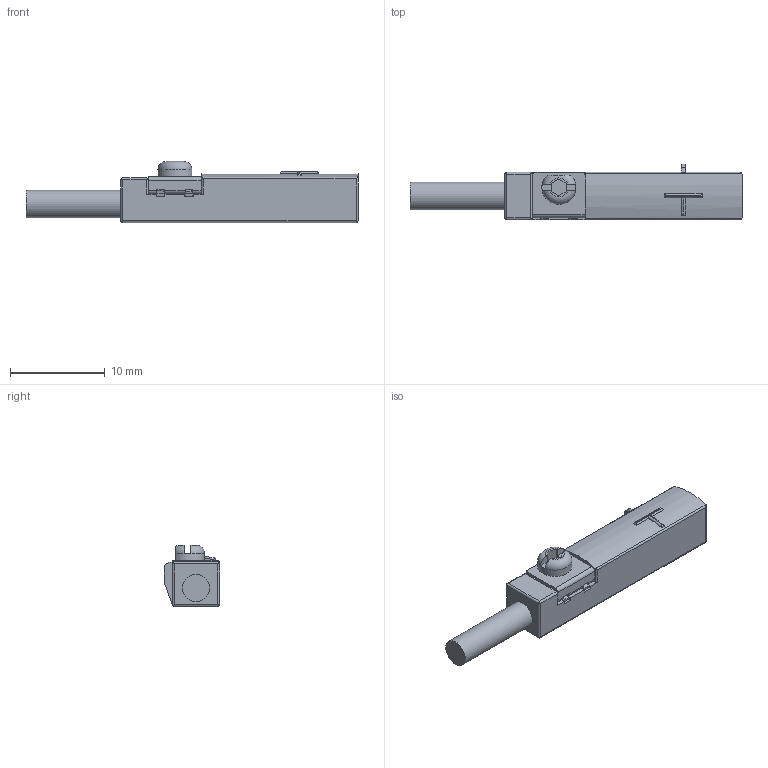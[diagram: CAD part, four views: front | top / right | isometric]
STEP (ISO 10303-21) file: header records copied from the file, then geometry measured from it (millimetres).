
FILE_DESCRIPTION(/* description */ ('STEP AP203'),/* implementation_level */ '2;1');
FILE_NAME(/* name */ 'MK5102',/* time_stamp */ '2024-03-15T09:31:14+01:00',/* author */ ('License CC BY-ND 4.0'),/* organization */ ('CADENAS'),/* preprocessor_version */ 'ST-DEVELOPER v19.3',/* originating_system */ 'PARTsolutions',/* authorisation */ ' ');
FILE_SCHEMA (('CONFIG_CONTROL_DESIGN'));
Length unit declared in the file: millimetre
Products named in the file (1): MK5102
Bounding box: 35 x 5.85 x 6.44 mm (x, y, z)
Volume: 671.2 mm3; surface area: 742.6 mm2
Topology: 1 solids, 3 shells, 178 faces, 504 edges, 330 vertices
Faces by surface type: plane 113, cylinder 61, torus 4
Full cylindrical faces by diameter (mm): 1.8 x1, 2.5 x1, 2.9 x1
Entity records: 7070 total; most frequent: CARTESIAN_POINT 1097, ORIENTED_EDGE 1002, DIRECTION 971, EDGE_CURVE 501, LINE 345, VECTOR 345, VERTEX_POINT 330, AXIS2_PLACEMENT_3D 313
